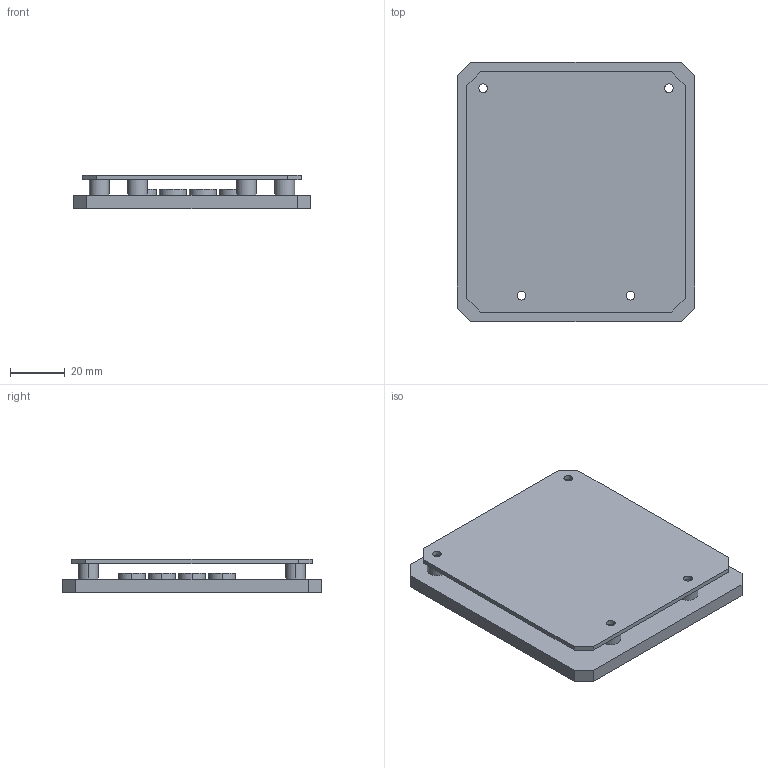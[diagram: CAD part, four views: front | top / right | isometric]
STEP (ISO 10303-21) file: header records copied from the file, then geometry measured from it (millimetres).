
FILE_DESCRIPTION (( 'STEP AP203' ), '1' );
FILE_NAME ('Array_jig_assembly.step', '2026-09-29T11:35:37', ( '' ), ( '' ), 'SwSTEP 2.0', 'SolidWorks 2025', '' );
FILE_SCHEMA (( 'CONFIG_CONTROL_DESIGN' ));
Length unit declared in the file: millimetre
Products named in the file (4): REF_pcb_80x88; Array_jig_assembly; REF_16_emitters; 01_array_alignment_jig
Assembly tree (3 placements, depth 2):
  Array_jig_assembly
    01_array_alignment_jig
    REF_16_emitters
    REF_pcb_80x88
Bounding box: 87 x 95 x 12.2 mm (x, y, z)
Volume: 54683.3 mm3; surface area: 39469.1 mm2
Topology: 18 solids, 18 shells, 144 faces, 312 edges, 208 vertices
Faces by surface type: cylinder 88, plane 56
Entity records: 4492 total; most frequent: DIRECTION 788, CARTESIAN_POINT 670, ORIENTED_EDGE 624, AXIS2_PLACEMENT_3D 326, EDGE_CURVE 312, VERTEX_POINT 208, EDGE_LOOP 196, CIRCLE 176
